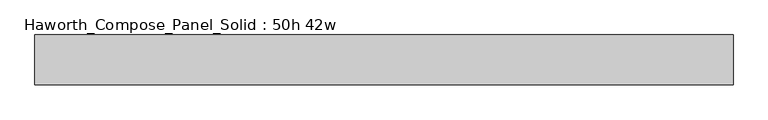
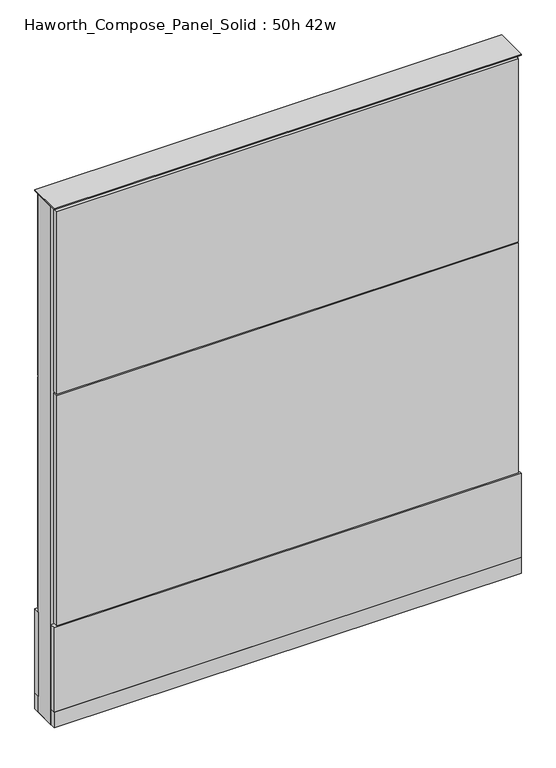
"""IFC4 building model written with IfcOpenShell, lengths in millimetres: furniture geometry, Haworth_Compose_Panel_Solid : 50h 42w."""

from ifc_helpers import new_model, si_unit, point, frame, frame_2d, origin, origin_with_axes, place, context, project, spatial, polyline, circle_curve, trimmed, segment, composite_curve, outline, extrude, source, transform, mapped, element, save


def haworth_compose_panel_solid_50h_42w_4d63d4d8(model_context):
    return source(origin(), model_context, "Body", "SweptSolid", [
        extrude(outline(composite_curve([segment(trimmed(circle_curve(frame_2d((-454.7597098, 0.0)), 12.7), [point((-467.4597098, 0.0))], [point((-442.0597098, 0.0))], False, "CARTESIAN"), True, "CONTINUOUS"), segment(trimmed(circle_curve(frame_2d((-454.7597098, 0.0)), 12.7), [point((-442.0597098, 0.0))], [point((-467.4597098, 0.0))], False, "CARTESIAN"), True, "CONTINUOUS")], self_intersect=False)), origin_with_axes(), (0.0, 0.0, 1.0), 12.7),
        extrude(outline(composite_curve([segment(trimmed(circle_curve(frame_2d((459.6402902, 0.0)), 12.7), [point((446.9402902, 0.0))], [point((472.3402902, 0.0))], False, "CARTESIAN"), True, "CONTINUOUS"), segment(trimmed(circle_curve(frame_2d((459.6402902, 0.0)), 12.7), [point((472.3402902, 0.0))], [point((446.9402902, 0.0))], False, "CARTESIAN"), True, "CONTINUOUS")], self_intersect=False)), origin_with_axes(), (0.0, 0.0, 1.0), 12.7),
        extrude(outline(polyline([(529.4902902, -38.1), (-524.6097098, -38.1), (-524.6097098, -25.4), (529.4902902, -25.4), (529.4902902, -38.1)])), frame((0.0, 0.0, 815.975), z_axis=(0.0, 0.0, 1.0), x_axis=(1.0, 0.0, 0.0)), (0.0, 0.0, 1.0), 441.325),
        extrude(outline(polyline([(529.4902902, -38.1), (-524.6097098, -38.1), (-524.6097098, -25.4), (529.4902902, -25.4), (529.4902902, -38.1)])), frame((0.0, 0.0, 257.175), z_axis=(0.0, 0.0, 1.0), x_axis=(1.0, 0.0, 0.0)), (0.0, 0.0, 1.0), 555.625),
        extrude(outline(polyline([(535.8402902, -38.1), (-530.9597098, -38.1), (-530.9597098, -25.4), (535.8402902, -25.4), (535.8402902, -38.1)])), frame((0.0, 0.0, 50.8), z_axis=(0.0, 0.0, 1.0), x_axis=(1.0, 0.0, 0.0)), (0.0, 0.0, 1.0), 203.2),
        extrude(outline(polyline([(535.8402902, 38.1), (535.8402902, 25.4), (-530.9597098, 25.4), (-530.9597098, 38.1), (535.8402902, 38.1)])), frame((0.0, 0.0, 50.8), z_axis=(0.0, 0.0, 1.0), x_axis=(1.0, 0.0, 0.0)), (0.0, 0.0, 1.0), 203.2),
        extrude(outline(polyline([(529.4902902, 38.1), (529.4902902, 25.4), (-524.6097098, 25.4), (-524.6097098, 38.1), (529.4902902, 38.1)])), frame((0.0, 0.0, 815.975), z_axis=(0.0, 0.0, 1.0), x_axis=(1.0, 0.0, 0.0)), (0.0, 0.0, 1.0), 441.325),
        extrude(outline(polyline([(529.4902902, 38.1), (529.4902902, 25.4), (-524.6097098, 25.4), (-524.6097098, 38.1), (529.4902902, 38.1)])), frame((0.0, 0.0, 257.175), z_axis=(0.0, 0.0, 1.0), x_axis=(1.0, 0.0, 0.0)), (0.0, 0.0, 1.0), 555.625),
        extrude(outline(polyline([(535.8402902, -25.4), (-530.9597098, -25.4), (-530.9597098, 25.4), (535.8402902, 25.4), (535.8402902, -25.4)])), frame((0.0, 0.0, 12.7), z_axis=(0.0, 0.0, 1.0), x_axis=(1.0, 0.0, 0.0)), (0.0, 0.0, 1.0), 1250.95),
        extrude(outline(polyline([(-530.9597098, 38.1), (535.8402902, 38.1), (535.8402902, -38.1), (-530.9597098, -38.1), (-530.9597098, 38.1)])), frame((0.0, 0.0, 12.7), z_axis=(0.0, 0.0, 1.0), x_axis=(1.0, 0.0, 0.0)), (0.0, 0.0, 1.0), 38.1),
        extrude(outline(polyline([(-530.9597098, 38.1), (535.8402902, 38.1), (535.8402902, -38.1), (-530.9597098, -38.1), (-530.9597098, 38.1)])), frame((0.0, 0.0, 1263.65), z_axis=(0.0, 0.0, 1.0), x_axis=(1.0, 0.0, 0.0)), (0.0, 0.0, 1.0), 3.175),
    ])


if __name__ == "__main__":
    model = new_model("IFC4")
    model_context = context("Model", 3, world=origin())
    ifc_project = project(units=[si_unit("LENGTHUNIT", "METRE", prefix="MILLI")], contexts=[model_context])
    site = spatial("IfcSite", under=ifc_project)
    building = spatial("IfcBuilding", under=site)
    placement = place(None, origin())
    haworth_compose_panel_solid_50h_42w_shape = haworth_compose_panel_solid_50h_42w_4d63d4d8(model_context)
    element("IfcFurniture", 1, ObjectType="Haworth_Compose_Panel_Solid : 50h 42w", at=placement, inside=building, context=model_context, shape_type="MappedRepresentation", body=[
        mapped(haworth_compose_panel_solid_50h_42w_shape, transform((0.0, 0.0, 0.0), x_axis=(1.0, 0.0, 0.0), y_axis=(0.0, 1.0, 0.0), z_axis=(0.0, 0.0, 1.0))),
    ])
    save(model, "model.ifc")
